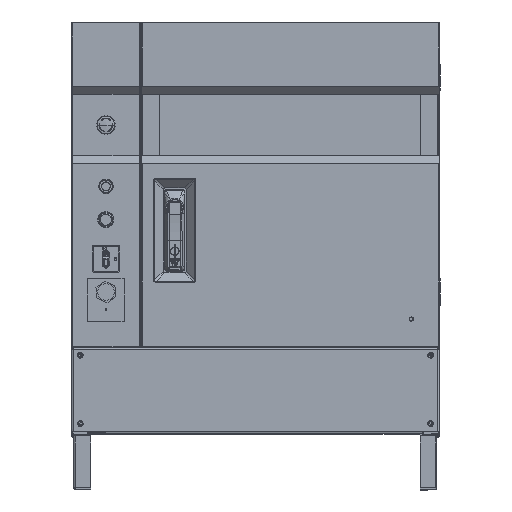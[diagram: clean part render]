
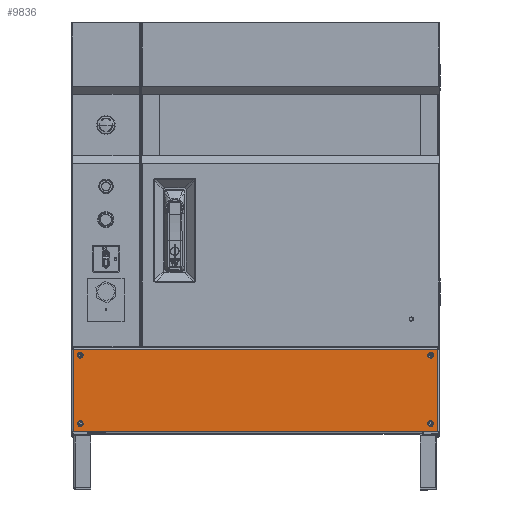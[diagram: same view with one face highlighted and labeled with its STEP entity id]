
A CAD part, top view. The second image highlights one B-rep face of the part: STEP entity #9836.
In plain terms, the highlighted planar face has unit normal (0, 0, -1).
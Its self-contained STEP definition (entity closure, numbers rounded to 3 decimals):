
#710 = DIRECTION ( 'NONE',  ( -1., 0., 0. ) ) ;
#2239 = ORIENTED_EDGE ( 'NONE', *, *, #36900, .F. ) ;
#2605 = AXIS2_PLACEMENT_3D ( 'NONE', #29964, #88517, #38386 ) ;
#3585 = EDGE_LOOP ( 'NONE', ( #98642, #55918 ) ) ;
#5591 = CARTESIAN_POINT ( 'NONE',  ( -327., -589.11, 63.687 ) ) ;
#7476 = ORIENTED_EDGE ( 'NONE', *, *, #69096, .T. ) ;
#7616 = AXIS2_PLACEMENT_3D ( 'NONE', #21009, #12931, #71615 ) ;
#8230 = EDGE_CURVE ( 'NONE', #78455, #39619, #13534, .T. ) ;
#9277 = LINE ( 'NONE', #66703, #70986 ) ;
#9836 = ADVANCED_FACE ( 'NONE', ( #103645, #39539, #61863, #81513, #59227 ), #54791, .F. ) ;
#11195 = AXIS2_PLACEMENT_3D ( 'NONE', #34578, #93136, #43019 ) ;
#12931 = DIRECTION ( 'NONE',  ( 0., 0., 1. ) ) ;
#13310 = AXIS2_PLACEMENT_3D ( 'NONE', #73781, #23525, #82192 ) ;
#13534 = CIRCLE ( 'NONE', #2605, 5.15 ) ;
#14077 = VERTEX_POINT ( 'NONE', #19287 ) ;
#15277 = VECTOR ( 'NONE', #54849, 1000. ) ;
#16245 = CIRCLE ( 'NONE', #48538, 5.15 ) ;
#16612 = VERTEX_POINT ( 'NONE', #5591 ) ;
#17001 = AXIS2_PLACEMENT_3D ( 'NONE', #77515, #27278, #85872 ) ;
#17789 = AXIS2_PLACEMENT_3D ( 'NONE', #90977, #40870, #99405 ) ;
#17895 = LINE ( 'NONE', #88446, #15277 ) ;
#18409 = CARTESIAN_POINT ( 'NONE',  ( 314.5, -722.61, 63.687 ) ) ;
#19287 = CARTESIAN_POINT ( 'NONE',  ( 327., -589.11, 63.687 ) ) ;
#19320 = CIRCLE ( 'NONE', #56739, 5.15 ) ;
#19623 = CARTESIAN_POINT ( 'NONE',  ( -314.5, -727.76, 63.687 ) ) ;
#20156 = CIRCLE ( 'NONE', #17789, 5.15 ) ;
#20627 = DIRECTION ( 'NONE',  ( 0., 0., -1. ) ) ;
#20921 = LINE ( 'NONE', #23279, #37982 ) ;
#21009 = CARTESIAN_POINT ( 'NONE',  ( 0., -661.36, 63.687 ) ) ;
#21908 = EDGE_LOOP ( 'NONE', ( #45856, #49551 ) ) ;
#23279 = CARTESIAN_POINT ( 'NONE',  ( 0., -589.11, 63.687 ) ) ;
#23344 = CARTESIAN_POINT ( 'NONE',  ( -314.5, -717.46, 63.687 ) ) ;
#23525 = DIRECTION ( 'NONE',  ( 0., 0., -1. ) ) ;
#25925 = DIRECTION ( 'NONE',  ( 0., 0., -1. ) ) ;
#26843 = DIRECTION ( 'NONE',  ( 0., -1., 0. ) ) ;
#26948 = CIRCLE ( 'NONE', #13310, 5.15 ) ;
#27278 = DIRECTION ( 'NONE',  ( 0., 0., -1. ) ) ;
#27562 = VERTEX_POINT ( 'NONE', #89234 ) ;
#29964 = CARTESIAN_POINT ( 'NONE',  ( 314.5, -722.61, 63.687 ) ) ;
#31529 = VERTEX_POINT ( 'NONE', #66872 ) ;
#31671 = ORIENTED_EDGE ( 'NONE', *, *, #68537, .F. ) ;
#31765 = ORIENTED_EDGE ( 'NONE', *, *, #57608, .F. ) ;
#33705 = EDGE_CURVE ( 'NONE', #16612, #40927, #17895, .T. ) ;
#33840 = VERTEX_POINT ( 'NONE', #41947 ) ;
#34578 = CARTESIAN_POINT ( 'NONE',  ( -314.5, -600.11, 63.687 ) ) ;
#36900 = EDGE_CURVE ( 'NONE', #33840, #27562, #19320, .T. ) ;
#37982 = VECTOR ( 'NONE', #90315, 1000. ) ;
#38386 = DIRECTION ( 'NONE',  ( 0., -1., 0. ) ) ;
#38535 = CARTESIAN_POINT ( 'NONE',  ( 314.5, -727.76, 63.687 ) ) ;
#39539 = FACE_BOUND ( 'NONE', #3585, .T. ) ;
#39619 = VERTEX_POINT ( 'NONE', #64699 ) ;
#40420 = EDGE_LOOP ( 'NONE', ( #31671, #73484, #7476, #86959 ) ) ;
#40870 = DIRECTION ( 'NONE',  ( 0., 0., -1. ) ) ;
#40927 = VERTEX_POINT ( 'NONE', #57977 ) ;
#41947 = CARTESIAN_POINT ( 'NONE',  ( 314.5, -605.26, 63.687 ) ) ;
#43019 = DIRECTION ( 'NONE',  ( 0., -1., 0. ) ) ;
#43822 = EDGE_CURVE ( 'NONE', #94744, #31529, #78710, .T. ) ;
#45310 = ORIENTED_EDGE ( 'NONE', *, *, #85051, .F. ) ;
#45856 = ORIENTED_EDGE ( 'NONE', *, *, #51472, .F. ) ;
#48436 = EDGE_CURVE ( 'NONE', #82118, #76175, #50808, .T. ) ;
#48538 = AXIS2_PLACEMENT_3D ( 'NONE', #18409, #77089, #26843 ) ;
#49551 = ORIENTED_EDGE ( 'NONE', *, *, #43822, .F. ) ;
#49873 = DIRECTION ( 'NONE',  ( 0., 1., 0. ) ) ;
#50808 = CIRCLE ( 'NONE', #17001, 5.15 ) ;
#51472 = EDGE_CURVE ( 'NONE', #31529, #94744, #20156, .T. ) ;
#54791 = PLANE ( 'NONE',  #7616 ) ;
#54849 = DIRECTION ( 'NONE',  ( 0., -1., 0. ) ) ;
#55217 = EDGE_LOOP ( 'NONE', ( #2239, #45310 ) ) ;
#55918 = ORIENTED_EDGE ( 'NONE', *, *, #86119, .F. ) ;
#56739 = AXIS2_PLACEMENT_3D ( 'NONE', #76191, #25925, #84545 ) ;
#57608 = EDGE_CURVE ( 'NONE', #76175, #82118, #91180, .T. ) ;
#57977 = CARTESIAN_POINT ( 'NONE',  ( -327., -736.61, 63.687 ) ) ;
#59227 = FACE_BOUND ( 'NONE', #93027, .T. ) ;
#61863 = FACE_BOUND ( 'NONE', #21908, .T. ) ;
#64699 = CARTESIAN_POINT ( 'NONE',  ( 314.5, -717.46, 63.687 ) ) ;
#65681 = EDGE_CURVE ( 'NONE', #75571, #14077, #9277, .T. ) ;
#66703 = CARTESIAN_POINT ( 'NONE',  ( 327., -661.36, 63.687 ) ) ;
#66872 = CARTESIAN_POINT ( 'NONE',  ( -314.5, -605.26, 63.687 ) ) ;
#68537 = EDGE_CURVE ( 'NONE', #14077, #16612, #20921, .T. ) ;
#69096 = EDGE_CURVE ( 'NONE', #75571, #40927, #92873, .T. ) ;
#70478 = ORIENTED_EDGE ( 'NONE', *, *, #48436, .F. ) ;
#70865 = CARTESIAN_POINT ( 'NONE',  ( -314.5, -722.61, 63.687 ) ) ;
#70986 = VECTOR ( 'NONE', #49873, 1000. ) ;
#71615 = DIRECTION ( 'NONE',  ( 0., -1., 0. ) ) ;
#73484 = ORIENTED_EDGE ( 'NONE', *, *, #65681, .F. ) ;
#73781 = CARTESIAN_POINT ( 'NONE',  ( 314.5, -600.11, 63.687 ) ) ;
#75571 = VERTEX_POINT ( 'NONE', #108662 ) ;
#76175 = VERTEX_POINT ( 'NONE', #19623 ) ;
#76191 = CARTESIAN_POINT ( 'NONE',  ( 314.5, -600.11, 63.687 ) ) ;
#77089 = DIRECTION ( 'NONE',  ( 0., 0., -1. ) ) ;
#77515 = CARTESIAN_POINT ( 'NONE',  ( -314.5, -722.61, 63.687 ) ) ;
#78455 = VERTEX_POINT ( 'NONE', #38535 ) ;
#78710 = CIRCLE ( 'NONE', #11195, 5.15 ) ;
#79298 = DIRECTION ( 'NONE',  ( 0., -1., 0. ) ) ;
#81513 = FACE_BOUND ( 'NONE', #55217, .T. ) ;
#81901 = CARTESIAN_POINT ( 'NONE',  ( -314.5, -594.96, 63.687 ) ) ;
#82118 = VERTEX_POINT ( 'NONE', #23344 ) ;
#82192 = DIRECTION ( 'NONE',  ( 0., -1., 0. ) ) ;
#84545 = DIRECTION ( 'NONE',  ( 0., -1., 0. ) ) ;
#85051 = EDGE_CURVE ( 'NONE', #27562, #33840, #26948, .T. ) ;
#85872 = DIRECTION ( 'NONE',  ( 0., -1., 0. ) ) ;
#86119 = EDGE_CURVE ( 'NONE', #39619, #78455, #16245, .T. ) ;
#86959 = ORIENTED_EDGE ( 'NONE', *, *, #33705, .F. ) ;
#88446 = CARTESIAN_POINT ( 'NONE',  ( -327., -661.36, 63.687 ) ) ;
#88517 = DIRECTION ( 'NONE',  ( 0., 0., -1. ) ) ;
#89234 = CARTESIAN_POINT ( 'NONE',  ( 314.5, -594.96, 63.687 ) ) ;
#90261 = VECTOR ( 'NONE', #710, 1000. ) ;
#90315 = DIRECTION ( 'NONE',  ( -1., 0., 0. ) ) ;
#90977 = CARTESIAN_POINT ( 'NONE',  ( -314.5, -600.11, 63.687 ) ) ;
#91180 = CIRCLE ( 'NONE', #92374, 5.15 ) ;
#92374 = AXIS2_PLACEMENT_3D ( 'NONE', #70865, #20627, #79298 ) ;
#92873 = LINE ( 'NONE', #100036, #90261 ) ;
#93027 = EDGE_LOOP ( 'NONE', ( #31765, #70478 ) ) ;
#93136 = DIRECTION ( 'NONE',  ( 0., 0., -1. ) ) ;
#94744 = VERTEX_POINT ( 'NONE', #81901 ) ;
#98642 = ORIENTED_EDGE ( 'NONE', *, *, #8230, .F. ) ;
#99405 = DIRECTION ( 'NONE',  ( 0., -1., 0. ) ) ;
#100036 = CARTESIAN_POINT ( 'NONE',  ( -330., -736.61, 63.687 ) ) ;
#103645 = FACE_OUTER_BOUND ( 'NONE', #40420, .T. ) ;
#108662 = CARTESIAN_POINT ( 'NONE',  ( 327., -736.61, 63.687 ) ) ;
